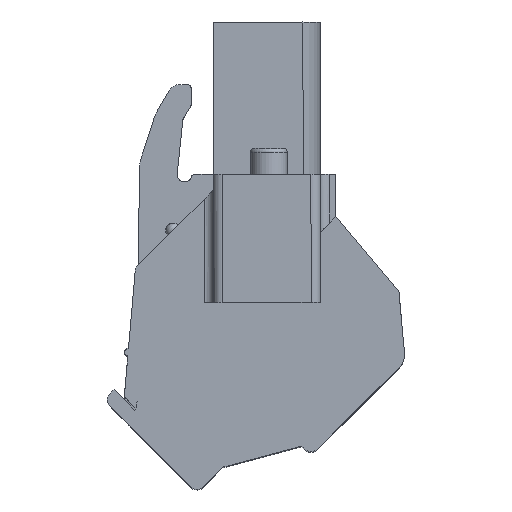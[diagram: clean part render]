
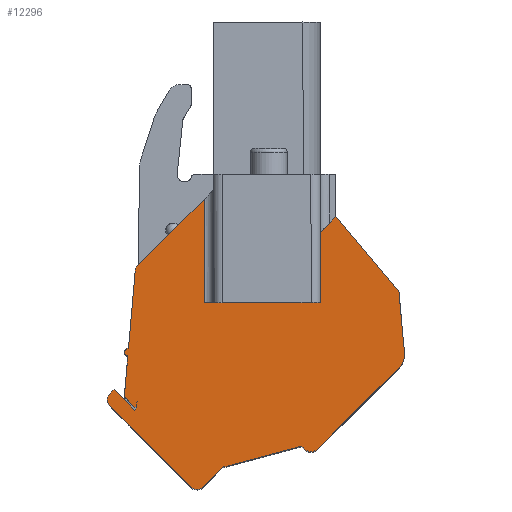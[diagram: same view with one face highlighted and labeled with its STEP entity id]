
A CAD part, top view. The second image highlights one B-rep face of the part: STEP entity #12296.
In plain terms, the highlighted planar face has unit normal (0, 0, 1).
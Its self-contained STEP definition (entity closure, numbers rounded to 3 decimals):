
#1106=DIRECTION('',(-0.707,-0.708,0.));
#1107=VECTOR('',#1106,0.104);
#1108=CARTESIAN_POINT('',(1.779,6.822,-6.15));
#1109=LINE('',#1108,#1107);
#1110=DIRECTION('',(-0.708,0.707,0.));
#1111=VECTOR('',#1110,0.761);
#1112=CARTESIAN_POINT('',(1.705,6.749,-6.15));
#1113=LINE('',#1112,#1111);
#1114=DIRECTION('',(-1.,-0.001,0.));
#1115=VECTOR('',#1114,0.045);
#1116=CARTESIAN_POINT('',(1.166,7.286,-6.15));
#1117=LINE('',#1116,#1115);
#1118=DIRECTION('',(0.086,0.996,0.));
#1119=VECTOR('',#1118,2.289);
#1120=CARTESIAN_POINT('',(1.121,7.286,-6.15));
#1121=LINE('',#1120,#1119);
#1122=CARTESIAN_POINT('',(1.336,9.766,-6.15));
#1123=DIRECTION('',(0.,0.,-1.));
#1124=DIRECTION('',(-0.086,-0.996,0.));
#1125=AXIS2_PLACEMENT_3D('',#1122,#1123,#1124);
#1127=DIRECTION('',(0.909,0.417,0.));
#1128=VECTOR('',#1127,0.114);
#1129=CARTESIAN_POINT('',(1.253,9.948,-6.15));
#1130=LINE('',#1129,#1128);
#1131=DIRECTION('',(0.086,0.996,0.));
#1132=VECTOR('',#1131,4.198);
#1133=CARTESIAN_POINT('',(1.356,9.995,-6.15));
#1134=LINE('',#1133,#1132);
#1135=CARTESIAN_POINT('',(2.217,14.134,-6.15));
#1136=DIRECTION('',(0.,0.,-1.));
#1137=DIRECTION('',(-0.996,0.086,0.));
#1138=AXIS2_PLACEMENT_3D('',#1135,#1136,#1137);
#1140=DIRECTION('',(0.707,0.708,0.));
#1141=VECTOR('',#1140,5.111);
#1142=CARTESIAN_POINT('',(1.863,14.488,-6.15));
#1143=LINE('',#1142,#1141);
#1144=DIRECTION('',(1.,0.001,0.));
#1145=VECTOR('',#1144,6.329);
#1146=CARTESIAN_POINT('',(5.479,12.465,-6.15));
#1147=LINE('',#1146,#1145);
#1148=DIRECTION('',(-0.001,1.,0.));
#1149=VECTOR('',#1148,3.825);
#1150=CARTESIAN_POINT('',(11.808,12.469,-6.15));
#1151=LINE('',#1150,#1149);
#1152=DIRECTION('',(0.707,0.707,0.));
#1153=VECTOR('',#1152,1.203);
#1154=CARTESIAN_POINT('',(11.806,16.295,-6.15));
#1155=LINE('',#1154,#1153);
#1156=DIRECTION('',(0.644,-0.765,0.));
#1157=VECTOR('',#1156,5.35);
#1158=CARTESIAN_POINT('',(12.657,17.145,-6.15));
#1159=LINE('',#1158,#1157);
#1160=DIRECTION('',(0.089,-0.996,0.));
#1161=VECTOR('',#1160,3.333);
#1162=CARTESIAN_POINT('',(16.102,13.053,-6.15));
#1163=LINE('',#1162,#1161);
#1164=CARTESIAN_POINT('',(15.404,9.644,-6.15));
#1165=DIRECTION('',(0.,0.,-1.));
#1166=DIRECTION('',(0.996,0.089,0.));
#1167=AXIS2_PLACEMENT_3D('',#1164,#1165,#1166);
#1169=DIRECTION('',(-0.707,-0.707,0.));
#1170=VECTOR('',#1169,6.298);
#1171=CARTESIAN_POINT('',(16.111,8.937,-6.15));
#1172=LINE('',#1171,#1170);
#1173=CARTESIAN_POINT('',(11.304,4.837,-6.15));
#1174=DIRECTION('',(0.,0.,-1.));
#1175=DIRECTION('',(0.707,-0.707,0.));
#1176=AXIS2_PLACEMENT_3D('',#1173,#1174,#1175);
#1178=DIRECTION('',(-0.707,0.707,0.));
#1179=VECTOR('',#1178,0.23);
#1180=CARTESIAN_POINT('',(10.95,4.483,-6.15));
#1181=LINE('',#1180,#1179);
#1182=DIRECTION('',(-0.966,-0.259,0.));
#1183=VECTOR('',#1182,4.432);
#1184=CARTESIAN_POINT('',(10.788,4.646,-6.15));
#1185=LINE('',#1184,#1183);
#1186=DIRECTION('',(-0.707,-0.707,0.));
#1187=VECTOR('',#1186,1.501);
#1188=CARTESIAN_POINT('',(6.506,3.498,-6.15));
#1189=LINE('',#1188,#1187);
#1190=CARTESIAN_POINT('',(5.091,2.79,-6.15));
#1191=DIRECTION('',(0.,0.,-1.));
#1192=DIRECTION('',(0.707,-0.707,0.));
#1193=AXIS2_PLACEMENT_3D('',#1190,#1191,#1192);
#1195=DIRECTION('',(-0.707,0.707,0.));
#1196=VECTOR('',#1195,6.2);
#1197=CARTESIAN_POINT('',(4.738,2.437,-6.15));
#1198=LINE('',#1197,#1196);
#1199=CARTESIAN_POINT('',(0.707,7.174,-6.15));
#1200=DIRECTION('',(0.,0.,-1.));
#1201=DIRECTION('',(-0.707,-0.707,0.));
#1202=AXIS2_PLACEMENT_3D('',#1199,#1200,#1201);
#1204=DIRECTION('',(0.707,0.707,0.));
#1205=VECTOR('',#1204,0.3);
#1206=CARTESIAN_POINT('',(0.354,7.528,-6.15));
#1207=LINE('',#1206,#1205);
#1208=DIRECTION('',(0.707,-0.707,0.));
#1209=VECTOR('',#1208,1.599);
#1210=CARTESIAN_POINT('',(0.566,7.74,-6.15));
#1211=LINE('',#1210,#1209);
#1212=DIRECTION('',(0.707,0.707,0.));
#1213=VECTOR('',#1212,0.077);
#1214=CARTESIAN_POINT('',(1.696,6.609,-6.15));
#1215=LINE('',#1214,#1213);
#1244=DIRECTION('',(-0.173,-0.985,0.));
#1245=VECTOR('',#1244,0.161);
#1246=CARTESIAN_POINT('',(1.779,6.822,-6.15));
#1247=LINE('',#1246,#1245);
#4109=DIRECTION('',(-0.001,1.,0.));
#4110=VECTOR('',#4109,5.64);
#4111=CARTESIAN_POINT('',(5.479,12.465,-6.15));
#4112=LINE('',#4111,#4110);
#4113=CARTESIAN_POINT('',(5.474,18.105,-6.15));
#8688=CARTESIAN_POINT('',(1.863,14.488,-6.15));
#8690=VERTEX_POINT('',#8688);
#8704=VERTEX_POINT('',#4113);
#8713=CARTESIAN_POINT('',(1.719,14.178,-6.15));
#8715=VERTEX_POINT('',#8713);
#8717=CARTESIAN_POINT('',(1.356,9.995,-6.15));
#8719=VERTEX_POINT('',#8717);
#8722=CARTESIAN_POINT('',(1.253,9.948,-6.15));
#8724=VERTEX_POINT('',#8722);
#8725=CARTESIAN_POINT('',(1.319,9.567,-6.15));
#8727=VERTEX_POINT('',#8725);
#8743=CARTESIAN_POINT('',(1.121,7.286,-6.15));
#8744=VERTEX_POINT('',#8743);
#9139=CARTESIAN_POINT('',(12.657,17.145,-6.15));
#9141=VERTEX_POINT('',#9139);
#9143=CARTESIAN_POINT('',(11.806,16.295,-6.15));
#9144=VERTEX_POINT('',#9143);
#9186=CARTESIAN_POINT('',(4.738,2.437,-6.15));
#9188=VERTEX_POINT('',#9186);
#9191=CARTESIAN_POINT('',(0.354,6.821,-6.15));
#9192=VERTEX_POINT('',#9191);
#9271=CARTESIAN_POINT('',(5.445,2.437,-6.15));
#9273=VERTEX_POINT('',#9271);
#9277=CARTESIAN_POINT('',(6.506,3.498,-6.15));
#9279=VERTEX_POINT('',#9277);
#9281=CARTESIAN_POINT('',(10.788,4.646,-6.15));
#9283=VERTEX_POINT('',#9281);
#9286=CARTESIAN_POINT('',(10.95,4.483,-6.15));
#9288=VERTEX_POINT('',#9286);
#9289=CARTESIAN_POINT('',(11.657,4.483,-6.15));
#9291=VERTEX_POINT('',#9289);
#9307=CARTESIAN_POINT('',(16.111,8.937,-6.15));
#9308=VERTEX_POINT('',#9307);
#9323=CARTESIAN_POINT('',(16.4,9.733,-6.15));
#9325=VERTEX_POINT('',#9323);
#9352=CARTESIAN_POINT('',(16.102,13.053,-6.15));
#9353=VERTEX_POINT('',#9352);
#9585=CARTESIAN_POINT('',(11.808,12.469,-6.15));
#9586=VERTEX_POINT('',#9585);
#9589=CARTESIAN_POINT('',(0.354,7.528,-6.15));
#9590=VERTEX_POINT('',#9589);
#9591=CARTESIAN_POINT('',(0.566,7.74,-6.15));
#9592=VERTEX_POINT('',#9591);
#9593=CARTESIAN_POINT('',(1.696,6.609,-6.15));
#9594=VERTEX_POINT('',#9593);
#9679=CARTESIAN_POINT('',(1.166,7.286,-6.15));
#9680=VERTEX_POINT('',#9679);
#9681=CARTESIAN_POINT('',(1.705,6.749,-6.15));
#9682=VERTEX_POINT('',#9681);
#9721=CARTESIAN_POINT('',(5.479,12.465,-6.15));
#9722=VERTEX_POINT('',#9721);
#10646=CARTESIAN_POINT('',(1.779,6.822,-6.15));
#10648=VERTEX_POINT('',#10646);
#10718=CARTESIAN_POINT('',(1.751,6.664,-6.15));
#10719=VERTEX_POINT('',#10718);
#12244=CARTESIAN_POINT('',(5.977,27.761,-6.15));
#12245=DIRECTION('',(0.,0.,1.));
#12246=DIRECTION('',(0.,-1.,0.));
#12247=AXIS2_PLACEMENT_3D('',#12244,#12245,#12246);
#12248=PLANE('',#12247);
#12250=ORIENTED_EDGE('',*,*,#12249,.F.);
#12252=ORIENTED_EDGE('',*,*,#12251,.T.);
#12254=ORIENTED_EDGE('',*,*,#12253,.T.);
#12256=ORIENTED_EDGE('',*,*,#12255,.T.);
#12258=ORIENTED_EDGE('',*,*,#12257,.T.);
#12260=ORIENTED_EDGE('',*,*,#12259,.T.);
#12262=ORIENTED_EDGE('',*,*,#12261,.T.);
#12264=ORIENTED_EDGE('',*,*,#12263,.T.);
#12266=ORIENTED_EDGE('',*,*,#12265,.T.);
#12268=ORIENTED_EDGE('',*,*,#12267,.T.);
#12270=ORIENTED_EDGE('',*,*,#12269,.F.);
#12272=ORIENTED_EDGE('',*,*,#12271,.T.);
#12273=ORIENTED_EDGE('',*,*,#12229,.T.);
#12274=ORIENTED_EDGE('',*,*,#11638,.T.);
#12276=ORIENTED_EDGE('',*,*,#12275,.T.);
#12277=ORIENTED_EDGE('',*,*,#11543,.T.);
#12278=ORIENTED_EDGE('',*,*,#11516,.T.);
#12279=ORIENTED_EDGE('',*,*,#11464,.T.);
#12280=ORIENTED_EDGE('',*,*,#11441,.T.);
#12281=ORIENTED_EDGE('',*,*,#11424,.T.);
#12282=ORIENTED_EDGE('',*,*,#11409,.T.);
#12283=ORIENTED_EDGE('',*,*,#11394,.T.);
#12284=ORIENTED_EDGE('',*,*,#11379,.T.);
#12285=ORIENTED_EDGE('',*,*,#11256,.T.);
#12287=ORIENTED_EDGE('',*,*,#12286,.T.);
#12289=ORIENTED_EDGE('',*,*,#12288,.T.);
#12291=ORIENTED_EDGE('',*,*,#12290,.T.);
#12293=ORIENTED_EDGE('',*,*,#12292,.T.);
#12294=EDGE_LOOP('',(#12250,#12252,#12254,#12256,#12258,#12260,#12262,#12264,
#12266,#12268,#12270,#12272,#12273,#12274,#12276,#12277,#12278,#12279,#12280,
#12281,#12282,#12283,#12284,#12285,#12287,#12289,#12291,#12293));
#12295=FACE_OUTER_BOUND('',#12294,.F.);
#12296=ADVANCED_FACE('',(#12295),#12248,.T.);
#1126=CIRCLE('',#1125,0.2);
#1139=CIRCLE('',#1138,0.5);
#1168=CIRCLE('',#1167,1.);
#1177=CIRCLE('',#1176,0.5);
#1194=CIRCLE('',#1193,0.5);
#1203=CIRCLE('',#1202,0.5);
#11256=EDGE_CURVE('',#9188,#9192,#1198,.T.);
#11379=EDGE_CURVE('',#9273,#9188,#1194,.T.);
#11394=EDGE_CURVE('',#9279,#9273,#1189,.T.);
#11409=EDGE_CURVE('',#9283,#9279,#1185,.T.);
#11424=EDGE_CURVE('',#9288,#9283,#1181,.T.);
#11441=EDGE_CURVE('',#9291,#9288,#1177,.T.);
#11464=EDGE_CURVE('',#9308,#9291,#1172,.T.);
#11516=EDGE_CURVE('',#9325,#9308,#1168,.T.);
#11543=EDGE_CURVE('',#9353,#9325,#1163,.T.);
#11638=EDGE_CURVE('',#9144,#9141,#1155,.T.);
#12229=EDGE_CURVE('',#9586,#9144,#1151,.T.);
#12249=EDGE_CURVE('',#10648,#10719,#1247,.T.);
#12251=EDGE_CURVE('',#10648,#9682,#1109,.T.);
#12253=EDGE_CURVE('',#9682,#9680,#1113,.T.);
#12255=EDGE_CURVE('',#9680,#8744,#1117,.T.);
#12257=EDGE_CURVE('',#8744,#8727,#1121,.T.);
#12259=EDGE_CURVE('',#8727,#8724,#1126,.T.);
#12261=EDGE_CURVE('',#8724,#8719,#1130,.T.);
#12263=EDGE_CURVE('',#8719,#8715,#1134,.T.);
#12265=EDGE_CURVE('',#8715,#8690,#1139,.T.);
#12267=EDGE_CURVE('',#8690,#8704,#1143,.T.);
#12269=EDGE_CURVE('',#9722,#8704,#4112,.T.);
#12271=EDGE_CURVE('',#9722,#9586,#1147,.T.);
#12275=EDGE_CURVE('',#9141,#9353,#1159,.T.);
#12286=EDGE_CURVE('',#9192,#9590,#1203,.T.);
#12288=EDGE_CURVE('',#9590,#9592,#1207,.T.);
#12290=EDGE_CURVE('',#9592,#9594,#1211,.T.);
#12292=EDGE_CURVE('',#9594,#10719,#1215,.T.);
